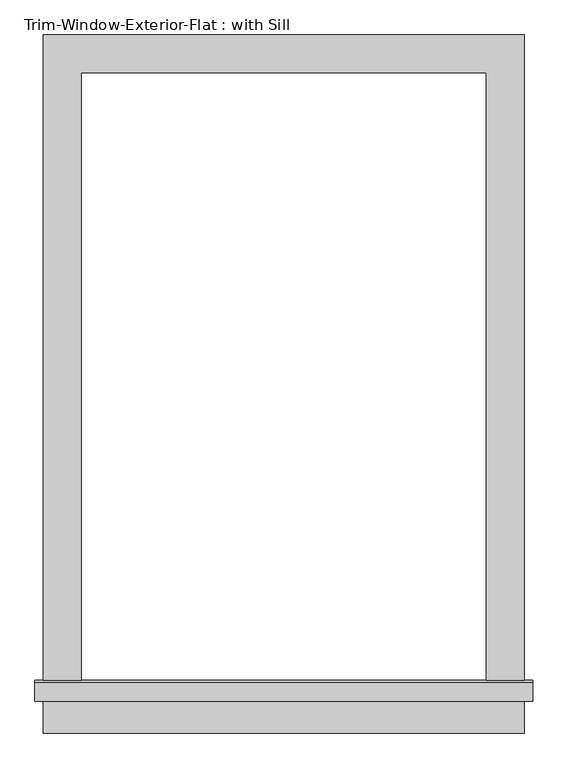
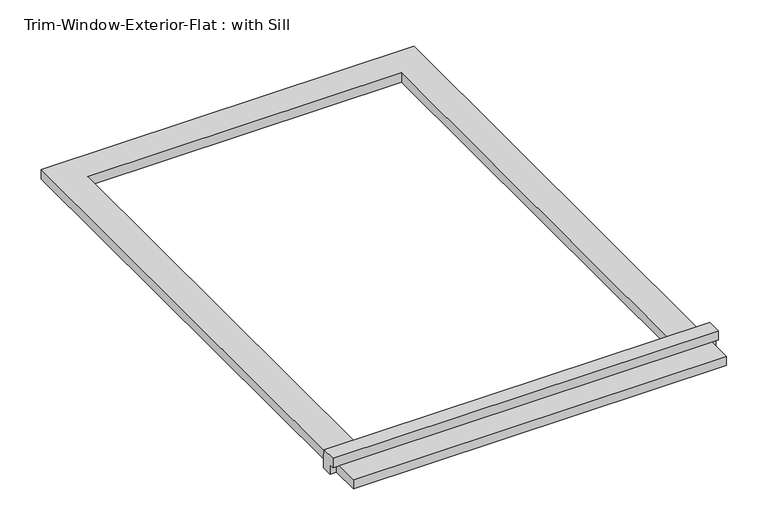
"""IFC4 building model written with IfcOpenShell, lengths in millimetres: proxy geometry, Trim-Window-Exterior-Flat : with Sill."""

from ifc_helpers import new_model, si_unit, frame, origin, origin_with_axes, place, context, project, spatial, polyline, outline, extrude, source, transform, mapped, element, save


def trim_window_exterior_flat_with_sill_a665a915(model_context):
    return source(origin(), model_context, "Body", "SweptSolid", [
        extrude(outline(polyline([(361.95, -936.5823709), (361.95, -993.7323709), (-361.95, -993.7323709), (-361.95, -936.5823709), (361.95, -936.5823709)])), origin_with_axes(), (0.0, 0.0, 1.0), 19.05),
        extrude(outline(polyline([(-946.15, 38.1), (-916.8580645, 38.1), (-914.4, 19.05), (-914.4, 0.0), (-936.5823709, 0.0), (-936.5823709, 19.05), (-946.15, 19.05), (-946.15, 38.1)])), frame((-374.65, 0.0, 0.0), z_axis=(1.0, 0.0, 0.0), x_axis=(0.0, 1.0, 0.0)), (0.0, 0.0, 1.0), 749.3),
        extrude(outline(polyline([(-361.95, 57.15), (361.95, 57.15), (361.95, -914.4), (304.8, -914.4), (304.8, 0.0), (-304.8, 0.0), (-304.8, -914.4), (-361.95, -914.4), (-361.95, 57.15)])), origin_with_axes(), (0.0, 0.0, 1.0), 19.05),
    ])


if __name__ == "__main__":
    model = new_model("IFC4")
    model_context = context("Model", 3, world=origin())
    ifc_project = project(units=[si_unit("LENGTHUNIT", "METRE", prefix="MILLI")], contexts=[model_context])
    site = spatial("IfcSite", under=ifc_project)
    building = spatial("IfcBuilding", under=site)
    placement = place(None, origin())
    trim_window_exterior_flat_with_sill_shape = trim_window_exterior_flat_with_sill_a665a915(model_context)
    element("IfcBuildingElementProxy", 1, Name="Trim-Window-Exterior-Flat : with Sill", ObjectType="Trim-Window-Exterior-Flat : with Sill", at=placement, inside=building, context=model_context, shape_type="MappedRepresentation", body=[
        mapped(trim_window_exterior_flat_with_sill_shape, transform((0.0, 0.0, 0.0), x_axis=(1.0, 0.0, 0.0), y_axis=(0.0, 1.0, 0.0), z_axis=(0.0, 0.0, 1.0))),
    ])
    save(model, "model.ifc")
